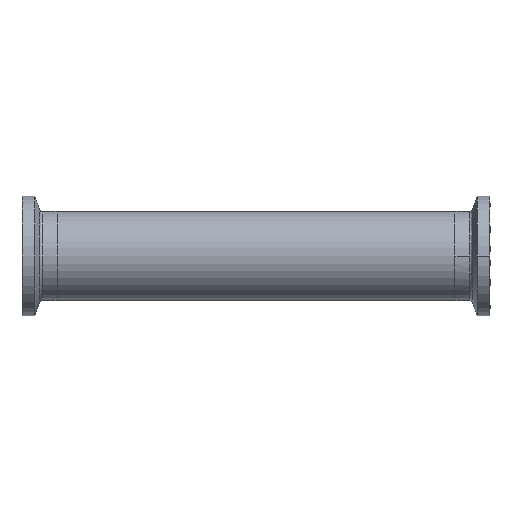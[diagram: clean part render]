
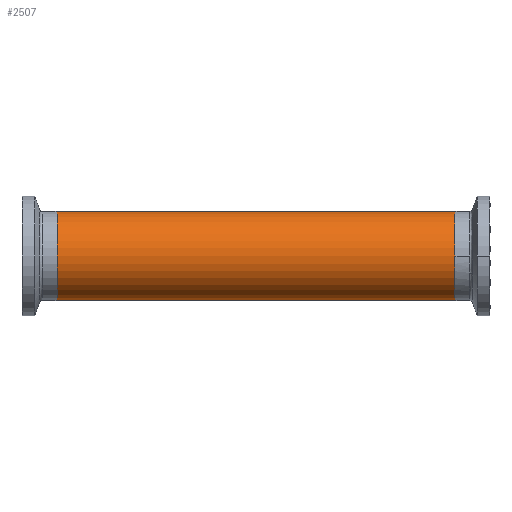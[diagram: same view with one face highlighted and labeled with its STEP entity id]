
A CAD part, front view. The second image highlights one B-rep face of the part: STEP entity #2507.
In plain terms, the highlighted cylindrical face has radius 12.7 mm (diameter 25.4 mm), a partial arc.
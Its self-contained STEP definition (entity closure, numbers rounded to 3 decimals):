
#36 = CIRCLE ( 'NONE', #219, 12.7 ) ;
#58 = VERTEX_POINT ( 'NONE', #2838 ) ;
#219 = AXIS2_PLACEMENT_3D ( 'NONE', #1856, #989, #1429 ) ;
#268 = AXIS2_PLACEMENT_3D ( 'NONE', #922, #2502, #1139 ) ;
#327 = EDGE_CURVE ( 'NONE', #1838, #1609, #2089, .T. ) ;
#446 = VERTEX_POINT ( 'NONE', #828 ) ;
#534 = ORIENTED_EDGE ( 'NONE', *, *, #1964, .T. ) ;
#828 = CARTESIAN_POINT ( 'NONE',  ( -56.7, 0., 12.7 ) ) ;
#885 = EDGE_LOOP ( 'NONE', ( #2075, #1031, #534, #2818 ) ) ;
#922 = CARTESIAN_POINT ( 'NONE',  ( 56.7, 0., 0. ) ) ;
#952 = DIRECTION ( 'NONE',  ( -1., 0., 0. ) ) ;
#989 = DIRECTION ( 'NONE',  ( 1., 0., 0. ) ) ;
#1031 = ORIENTED_EDGE ( 'NONE', *, *, #2541, .T. ) ;
#1139 = DIRECTION ( 'NONE',  ( 0., 0., 1. ) ) ;
#1227 = CARTESIAN_POINT ( 'NONE',  ( 92.621, 0., 12.7 ) ) ;
#1301 = EDGE_CURVE ( 'NONE', #446, #1609, #36, .T. ) ;
#1410 = DIRECTION ( 'NONE',  ( 0., 0., 1. ) ) ;
#1414 = CIRCLE ( 'NONE', #268, 12.7 ) ;
#1429 = DIRECTION ( 'NONE',  ( 0., 0., 1. ) ) ;
#1503 = VECTOR ( 'NONE', #2875, 1000. ) ;
#1609 = VERTEX_POINT ( 'NONE', #2876 ) ;
#1613 = FACE_OUTER_BOUND ( 'NONE', #885, .T. ) ;
#1618 = VECTOR ( 'NONE', #952, 1000. ) ;
#1680 = CARTESIAN_POINT ( 'NONE',  ( 92.621, 0., -12.7 ) ) ;
#1838 = VERTEX_POINT ( 'NONE', #1971 ) ;
#1856 = CARTESIAN_POINT ( 'NONE',  ( -56.7, 0., 0. ) ) ;
#1859 = DIRECTION ( 'NONE',  ( -1., 0., 0. ) ) ;
#1964 = EDGE_CURVE ( 'NONE', #58, #446, #2300, .T. ) ;
#1971 = CARTESIAN_POINT ( 'NONE',  ( 56.7, 0., -12.7 ) ) ;
#2075 = ORIENTED_EDGE ( 'NONE', *, *, #327, .F. ) ;
#2089 = LINE ( 'NONE', #1680, #1503 ) ;
#2300 = LINE ( 'NONE', #1227, #1618 ) ;
#2379 = AXIS2_PLACEMENT_3D ( 'NONE', #2828, #1859, #1410 ) ;
#2502 = DIRECTION ( 'NONE',  ( -1., 0., 0. ) ) ;
#2507 = ADVANCED_FACE ( 'NONE', ( #1613 ), #2728, .T. ) ;
#2541 = EDGE_CURVE ( 'NONE', #1838, #58, #1414, .T. ) ;
#2728 = CYLINDRICAL_SURFACE ( 'NONE', #2379, 12.7 ) ;
#2818 = ORIENTED_EDGE ( 'NONE', *, *, #1301, .T. ) ;
#2828 = CARTESIAN_POINT ( 'NONE',  ( 92.621, 0., 0. ) ) ;
#2838 = CARTESIAN_POINT ( 'NONE',  ( 56.7, 0., 12.7 ) ) ;
#2875 = DIRECTION ( 'NONE',  ( -1., 0., 0. ) ) ;
#2876 = CARTESIAN_POINT ( 'NONE',  ( -56.7, 0., -12.7 ) ) ;
